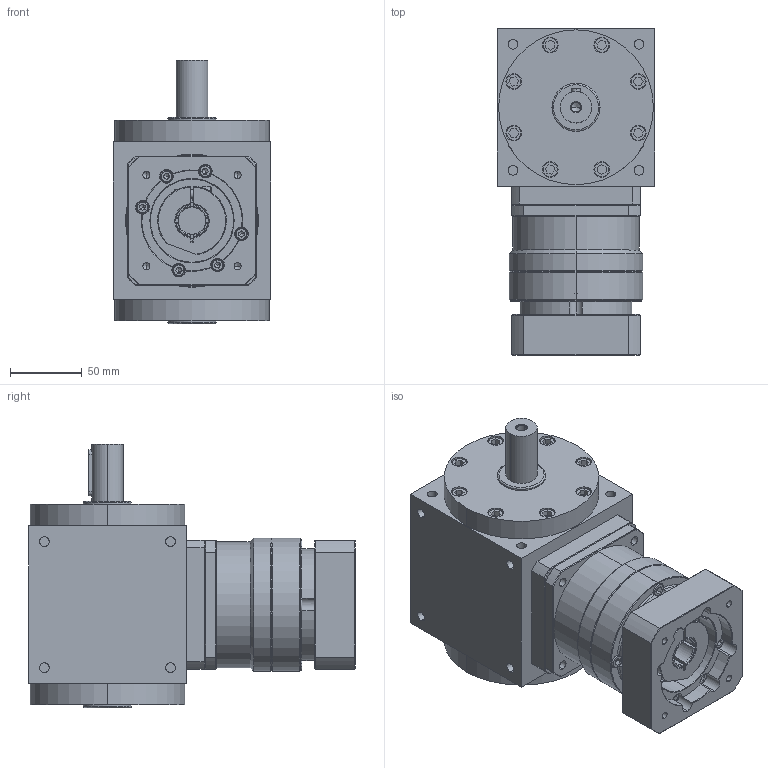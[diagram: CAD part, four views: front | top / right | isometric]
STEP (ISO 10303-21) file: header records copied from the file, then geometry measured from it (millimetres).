
FILE_DESCRIPTION (( 'STEP AP203' ), '1' );
FILE_NAME ('AT110-FL1-L1 19-70-90-M6.STEP', '2024-12-20T01:01:17', ( '' ), ( '' ), 'SwSTEP 2.0', 'SolidWorks 2021', '' );
FILE_SCHEMA (( 'CONFIG_CONTROL_DESIGN' ));
Length unit declared in the file: millimetre
Products named in the file (3): AT110-FL1-L1 19-70-90-M6; VRB-090-L1-S2-P1 19-70-90-M6; AT110-FL1
Assembly tree (2 placements, depth 2):
  AT110-FL1-L1 19-70-90-M6
    AT110-FL1
    VRB-090-L1-S2-P1 19-70-90-M6
Bounding box: 110 x 228 x 184 mm (x, y, z)
Volume: 2343247.5 mm3; surface area: 238139.9 mm2
Topology: 32 solids, 32 shells, 1276 faces, 3109 edges, 1951 vertices
Faces by surface type: plane 545, cylinder 504, cone 185, torus 38, bspline 4
Entity records: 39394 total; most frequent: CARTESIAN_POINT 8969, DIRECTION 6592, ORIENTED_EDGE 6090, EDGE_CURVE 3045, AXIS2_PLACEMENT_3D 2559, VERTEX_POINT 1951, VECTOR 1474, LINE 1474
